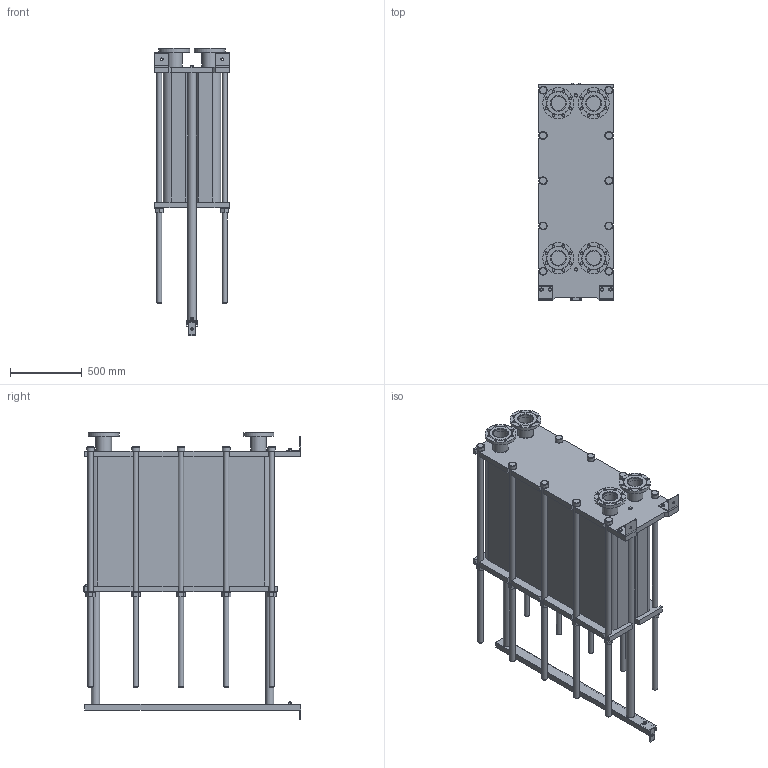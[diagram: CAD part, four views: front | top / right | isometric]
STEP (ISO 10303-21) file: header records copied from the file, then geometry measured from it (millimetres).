
FILE_DESCRIPTION(/* description */ (''),/* implementation_level */ '2;1');
FILE_NAME(/* name */ 'C:\Users\zhuro\Desktop\ENCO\TO\ЭН-04\ЭН-0,5-04-260-1.stp',/* time_stamp */ '2022-06-06T11:07:20+03:00',/* author */ ('zhuro'),/* organization */ (''),/* preprocessor_version */ 'ST-DEVELOPER v18.1',/* originating_system */ 'Autodesk Inventor 2022',/* authorisation */ '');
FILE_SCHEMA (('AUTOMOTIVE_DESIGN { 1 0 10303 214 3 1 1 }'));
Length unit declared in the file: millimetre
Products named in the file (1): ЭН-0,5-04-260-1
Bounding box: 520 x 1510 x 1995 mm (x, y, z)
Volume: 528100096.8 mm3; surface area: 11873677.1 mm2
Topology: 45 solids, 45 shells, 668 faces, 1611 edges, 1048 vertices
Faces by surface type: plane 457, cylinder 166, cone 39, torus 6
Full cylindrical faces by diameter (mm): 8 x4, 10 x2, 16 x8, 18 x35, 36 x25, 40 x2, 42 x1, 45 x4, 54 x10, 57 x2, 60 x10, 68 x2, 100 x4, 110 x8, 215 x4
Entity records: 23607 total; most frequent: CARTESIAN_POINT 7348, DIRECTION 3371, ORIENTED_EDGE 3142, EDGE_CURVE 1571, AXIS2_PLACEMENT_3D 1199, VERTEX_POINT 1044, LINE 973, VECTOR 973
